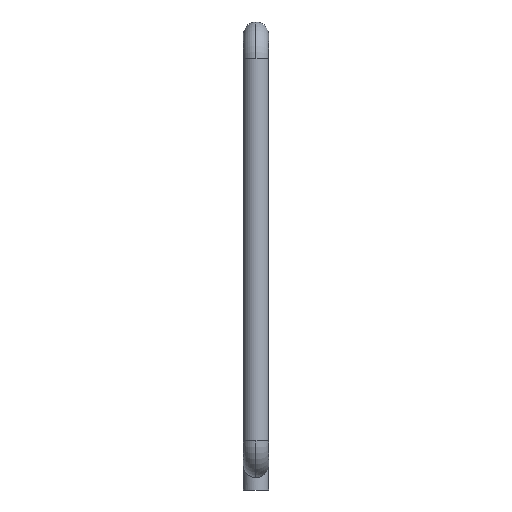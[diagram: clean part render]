
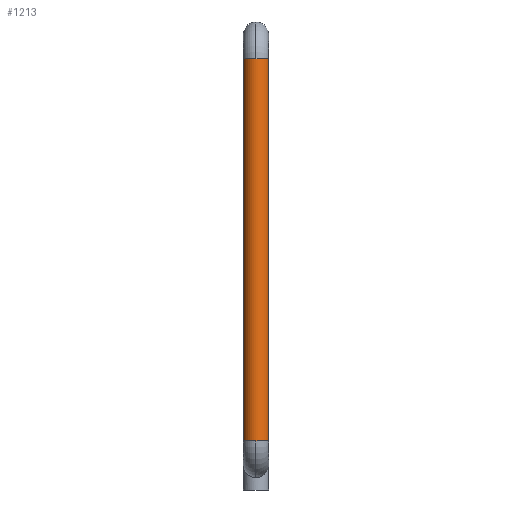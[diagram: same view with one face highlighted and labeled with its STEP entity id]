
A CAD part, left-side view. The second image highlights one B-rep face of the part: STEP entity #1213.
In plain terms, the highlighted cylindrical face has radius 30.15 mm (diameter 60.3 mm), a partial arc.
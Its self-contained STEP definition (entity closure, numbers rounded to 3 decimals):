
#6 = DIRECTION ( 'NONE',  ( -1., 0., 0. ) ) ;
#23 = DIRECTION ( 'NONE',  ( 0., 0., -1. ) ) ;
#61 = ORIENTED_EDGE ( 'NONE', *, *, #1176, .F. ) ;
#65 = CARTESIAN_POINT ( 'NONE',  ( 1555., 30.15, 2527. ) ) ;
#151 = CARTESIAN_POINT ( 'NONE',  ( 1555., -30.15, 3438.85 ) ) ;
#346 = DIRECTION ( 'NONE',  ( 0., 0., -1. ) ) ;
#357 = FACE_OUTER_BOUND ( 'NONE', #985, .T. ) ;
#369 = DIRECTION ( 'NONE',  ( 0., 0., -1. ) ) ;
#551 = EDGE_CURVE ( 'NONE', #1980, #2074, #1268, .T. ) ;
#560 = VECTOR ( 'NONE', #346, 1000. ) ;
#600 = AXIS2_PLACEMENT_3D ( 'NONE', #1018, #23, #2026 ) ;
#656 = VECTOR ( 'NONE', #369, 1000. ) ;
#690 = CARTESIAN_POINT ( 'NONE',  ( 1524.85, 0., 3438.85 ) ) ;
#709 = CARTESIAN_POINT ( 'NONE',  ( 1555., 0., 3438.85 ) ) ;
#716 = VERTEX_POINT ( 'NONE', #151 ) ;
#739 = ORIENTED_EDGE ( 'NONE', *, *, #551, .T. ) ;
#755 = EDGE_CURVE ( 'NONE', #2074, #2084, #1371, .T. ) ;
#790 = CIRCLE ( 'NONE', #1556, 30.15 ) ;
#930 = CIRCLE ( 'NONE', #2171, 30.15 ) ;
#961 = DIRECTION ( 'NONE',  ( -1., 0., 0. ) ) ;
#985 = EDGE_LOOP ( 'NONE', ( #61, #1910, #739, #1106, #2117, #2100 ) ) ;
#1018 = CARTESIAN_POINT ( 'NONE',  ( 1555., 0., 3438.85 ) ) ;
#1019 = CARTESIAN_POINT ( 'NONE',  ( 1524.85, 0., 2527. ) ) ;
#1026 = VERTEX_POINT ( 'NONE', #1493 ) ;
#1044 = CYLINDRICAL_SURFACE ( 'NONE', #1628, 30.15 ) ;
#1049 = EDGE_CURVE ( 'NONE', #1567, #2084, #790, .T. ) ;
#1097 = CARTESIAN_POINT ( 'NONE',  ( 1555., 30.15, 3438.85 ) ) ;
#1106 = ORIENTED_EDGE ( 'NONE', *, *, #755, .T. ) ;
#1176 = EDGE_CURVE ( 'NONE', #716, #1026, #2029, .T. ) ;
#1182 = CARTESIAN_POINT ( 'NONE',  ( 1555., 0., 2527. ) ) ;
#1190 = EDGE_CURVE ( 'NONE', #1026, #1567, #930, .T. ) ;
#1209 = DIRECTION ( 'NONE',  ( 0., 0., -1. ) ) ;
#1213 = ADVANCED_FACE ( 'NONE', ( #357 ), #1044, .T. ) ;
#1225 = DIRECTION ( 'NONE',  ( 0., 0., -1. ) ) ;
#1268 = CIRCLE ( 'NONE', #600, 30.15 ) ;
#1321 = DIRECTION ( 'NONE',  ( 0., 0., -1. ) ) ;
#1371 = LINE ( 'NONE', #2040, #560 ) ;
#1493 = CARTESIAN_POINT ( 'NONE',  ( 1555., -30.15, 2527. ) ) ;
#1556 = AXIS2_PLACEMENT_3D ( 'NONE', #2178, #1321, #961 ) ;
#1567 = VERTEX_POINT ( 'NONE', #1019 ) ;
#1628 = AXIS2_PLACEMENT_3D ( 'NONE', #1700, #1209, #1874 ) ;
#1677 = DIRECTION ( 'NONE',  ( 0., 0., -1. ) ) ;
#1692 = DIRECTION ( 'NONE',  ( -1., 0., 0. ) ) ;
#1700 = CARTESIAN_POINT ( 'NONE',  ( 1555., 0., 3438.85 ) ) ;
#1740 = AXIS2_PLACEMENT_3D ( 'NONE', #709, #1225, #1692 ) ;
#1866 = CARTESIAN_POINT ( 'NONE',  ( 1555., -30.15, 3438.85 ) ) ;
#1874 = DIRECTION ( 'NONE',  ( 0., 1., 0. ) ) ;
#1910 = ORIENTED_EDGE ( 'NONE', *, *, #2033, .T. ) ;
#1980 = VERTEX_POINT ( 'NONE', #690 ) ;
#2026 = DIRECTION ( 'NONE',  ( -1., 0., 0. ) ) ;
#2029 = LINE ( 'NONE', #1866, #656 ) ;
#2033 = EDGE_CURVE ( 'NONE', #716, #1980, #2146, .T. ) ;
#2040 = CARTESIAN_POINT ( 'NONE',  ( 1555., 30.15, 3438.85 ) ) ;
#2074 = VERTEX_POINT ( 'NONE', #1097 ) ;
#2084 = VERTEX_POINT ( 'NONE', #65 ) ;
#2100 = ORIENTED_EDGE ( 'NONE', *, *, #1190, .F. ) ;
#2117 = ORIENTED_EDGE ( 'NONE', *, *, #1049, .F. ) ;
#2146 = CIRCLE ( 'NONE', #1740, 30.15 ) ;
#2171 = AXIS2_PLACEMENT_3D ( 'NONE', #1182, #1677, #6 ) ;
#2178 = CARTESIAN_POINT ( 'NONE',  ( 1555., 0., 2527. ) ) ;
